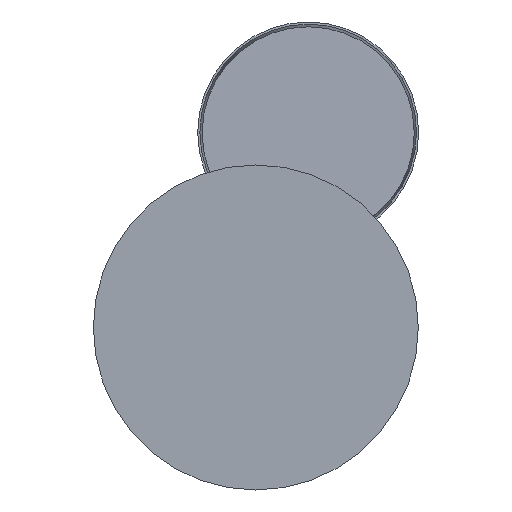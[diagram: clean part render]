
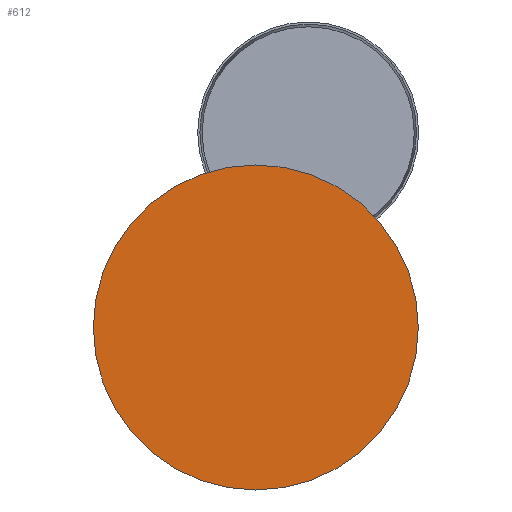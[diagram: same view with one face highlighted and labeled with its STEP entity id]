
A CAD part, front view. The second image highlights one B-rep face of the part: STEP entity #612.
In plain terms, the highlighted planar face has unit normal (0, -1, 0).
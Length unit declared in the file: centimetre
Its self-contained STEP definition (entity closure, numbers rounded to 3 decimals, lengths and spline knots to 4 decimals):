
#134=PLANE('',#678);
#162=FACE_OUTER_BOUND('',#203,.T.);
#203=EDGE_LOOP('',(#412));
#243=CIRCLE('',#676,9.);
#273=VERTEX_POINT('',#944);
#323=EDGE_CURVE('',#273,#273,#243,.T.);
#412=ORIENTED_EDGE('',*,*,#323,.F.);
#612=ADVANCED_FACE('',(#162),#134,.F.);
#676=AXIS2_PLACEMENT_3D('',#945,#756,#757);
#678=AXIS2_PLACEMENT_3D('',#949,#761,#762);
#756=DIRECTION('center_axis',(0.,1.,0.));
#757=DIRECTION('ref_axis',(1.,0.,0.));
#761=DIRECTION('center_axis',(0.,1.,0.));
#762=DIRECTION('ref_axis',(1.,0.,0.));
#944=CARTESIAN_POINT('',(-11.9,0.,0.));
#945=CARTESIAN_POINT('Origin',(-2.9,0.,0.));
#949=CARTESIAN_POINT('Origin',(-2.9,0.,0.));
